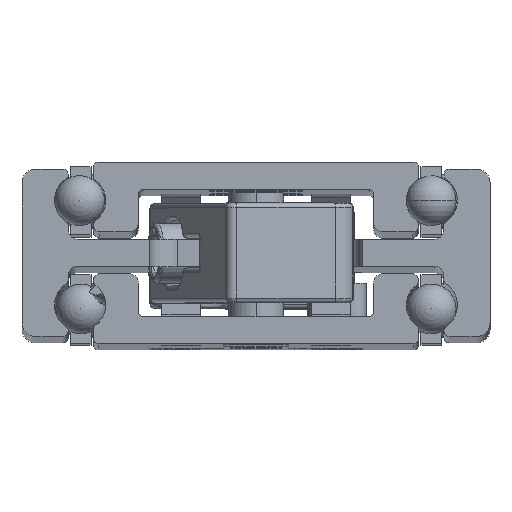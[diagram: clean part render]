
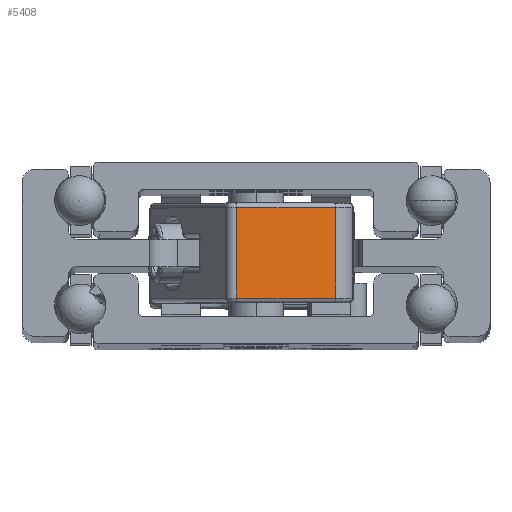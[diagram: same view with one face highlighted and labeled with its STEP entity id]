
A CAD part, top view. The second image highlights one B-rep face of the part: STEP entity #5408.
In plain terms, the highlighted planar face has unit normal (0.225, 0, 0.974) as drawn and (-1, 0, 0) by its records, which use the part's own axes.
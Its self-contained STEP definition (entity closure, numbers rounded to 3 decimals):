
#310 = VECTOR ( 'NONE', #22786, 1000. ) ;
#1435 = AXIS2_PLACEMENT_3D ( 'NONE', #20844, #1957, #4041 ) ;
#1696 = VERTEX_POINT ( 'NONE', #23117 ) ;
#1957 = DIRECTION ( 'NONE',  ( 1., 0., 0. ) ) ;
#3486 = CARTESIAN_POINT ( 'NONE',  ( -37., 8., 4.9 ) ) ;
#3896 = FACE_OUTER_BOUND ( 'NONE', #12080, .T. ) ;
#4041 = DIRECTION ( 'NONE',  ( 0., 0., -1. ) ) ;
#4439 = EDGE_CURVE ( 'NONE', #23645, #5340, #27237, .T. ) ;
#5303 = LINE ( 'NONE', #3486, #24590 ) ;
#5340 = VERTEX_POINT ( 'NONE', #6390 ) ;
#5408 = ADVANCED_FACE ( 'NONE', ( #3896 ), #23333, .F. ) ;
#6302 = EDGE_CURVE ( 'NONE', #1696, #23645, #5303, .T. ) ;
#6390 = CARTESIAN_POINT ( 'NONE',  ( -37., 8., -4.9 ) ) ;
#7579 = ORIENTED_EDGE ( 'NONE', *, *, #4439, .T. ) ;
#9302 = VECTOR ( 'NONE', #24367, 1000. ) ;
#9902 = LINE ( 'NONE', #20596, #16050 ) ;
#10303 = DIRECTION ( 'NONE',  ( 0., 0., 1. ) ) ;
#10555 = CARTESIAN_POINT ( 'NONE',  ( -37., 8., 5.4 ) ) ;
#11599 = VERTEX_POINT ( 'NONE', #13260 ) ;
#12080 = EDGE_LOOP ( 'NONE', ( #20388, #23258, #7579, #25803 ) ) ;
#13260 = CARTESIAN_POINT ( 'NONE',  ( -37., -3., -4.9 ) ) ;
#16050 = VECTOR ( 'NONE', #10303, 1000. ) ;
#18256 = LINE ( 'NONE', #20627, #9302 ) ;
#18736 = CARTESIAN_POINT ( 'NONE',  ( -37., 8., 4.9 ) ) ;
#20388 = ORIENTED_EDGE ( 'NONE', *, *, #25609, .T. ) ;
#20596 = CARTESIAN_POINT ( 'NONE',  ( -37., -3., 5.4 ) ) ;
#20627 = CARTESIAN_POINT ( 'NONE',  ( -37., -4., -4.9 ) ) ;
#20844 = CARTESIAN_POINT ( 'NONE',  ( -37., -4., 5.4 ) ) ;
#21571 = EDGE_CURVE ( 'NONE', #5340, #11599, #18256, .T. ) ;
#22786 = DIRECTION ( 'NONE',  ( 0., 0., -1. ) ) ;
#23117 = CARTESIAN_POINT ( 'NONE',  ( -37., -3., 4.9 ) ) ;
#23258 = ORIENTED_EDGE ( 'NONE', *, *, #6302, .T. ) ;
#23333 = PLANE ( 'NONE',  #1435 ) ;
#23645 = VERTEX_POINT ( 'NONE', #18736 ) ;
#24367 = DIRECTION ( 'NONE',  ( 0., -1., 0. ) ) ;
#24469 = DIRECTION ( 'NONE',  ( 0., 1., 0. ) ) ;
#24590 = VECTOR ( 'NONE', #24469, 1000. ) ;
#25609 = EDGE_CURVE ( 'NONE', #11599, #1696, #9902, .T. ) ;
#25803 = ORIENTED_EDGE ( 'NONE', *, *, #21571, .T. ) ;
#27237 = LINE ( 'NONE', #10555, #310 ) ;
